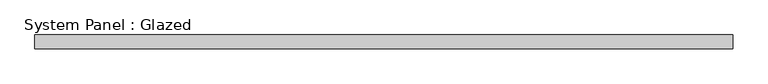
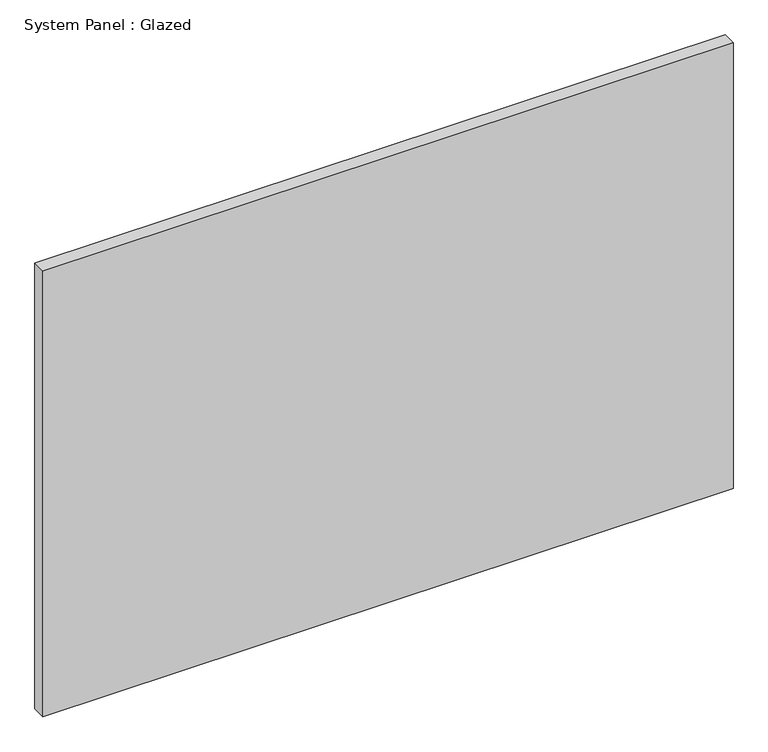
"""IFC4 building model written with IfcOpenShell, lengths in millimetres: plate geometry, System Panel : Glazed."""

from ifc_helpers import new_model, si_unit, origin, origin_with_axes, place, context, project, spatial, polyline, outline, extrude, source, transform, mapped, element, save


def system_panel_glazed_f58d4142(model_context):
    return source(origin(), model_context, "Body", "SweptSolid", [
        extrude(outline(polyline([(632.2785714, 19.05), (-632.2785714, 19.05), (-632.2785714, 44.45), (632.2785714, 44.45), (632.2785714, 19.05)])), origin_with_axes(), (0.0, 0.0, 1.0), 863.6),
    ])


if __name__ == "__main__":
    model = new_model("IFC4")
    model_context = context("Model", 3, world=origin())
    ifc_project = project(units=[si_unit("LENGTHUNIT", "METRE", prefix="MILLI")], contexts=[model_context])
    site = spatial("IfcSite", under=ifc_project)
    building = spatial("IfcBuilding", under=site)
    placement = place(None, origin())
    system_panel_glazed_shape = system_panel_glazed_f58d4142(model_context)
    element("IfcPlate", 1, ObjectType="System Panel : Glazed", at=placement, inside=building, context=model_context, shape_type="MappedRepresentation", body=[
        mapped(system_panel_glazed_shape, transform((0.0, 0.0, 0.0), x_axis=(1.0, 0.0, 0.0), y_axis=(0.0, 1.0, 0.0), z_axis=(0.0, 0.0, 1.0))),
    ])
    save(model, "model.ifc")
